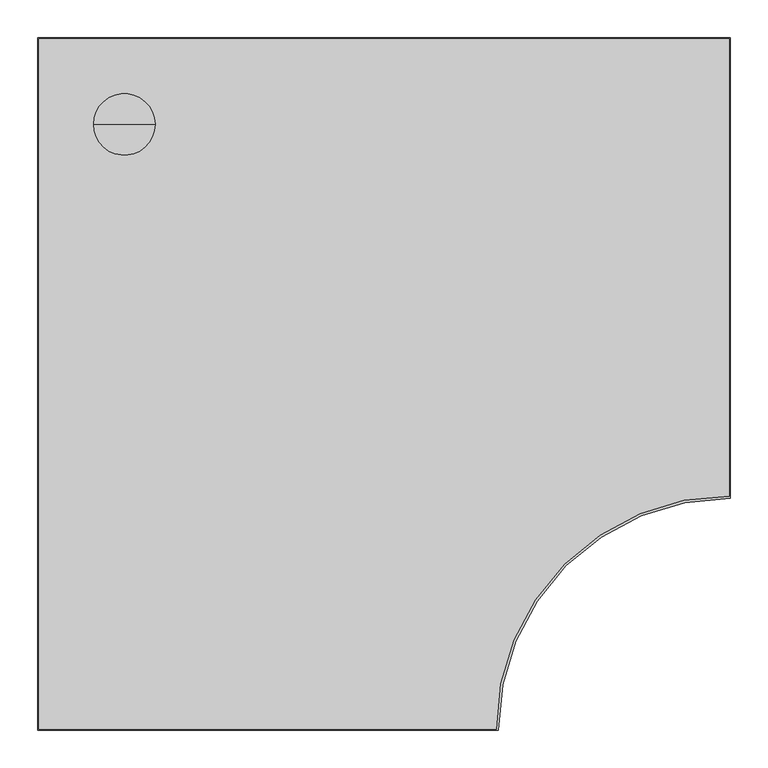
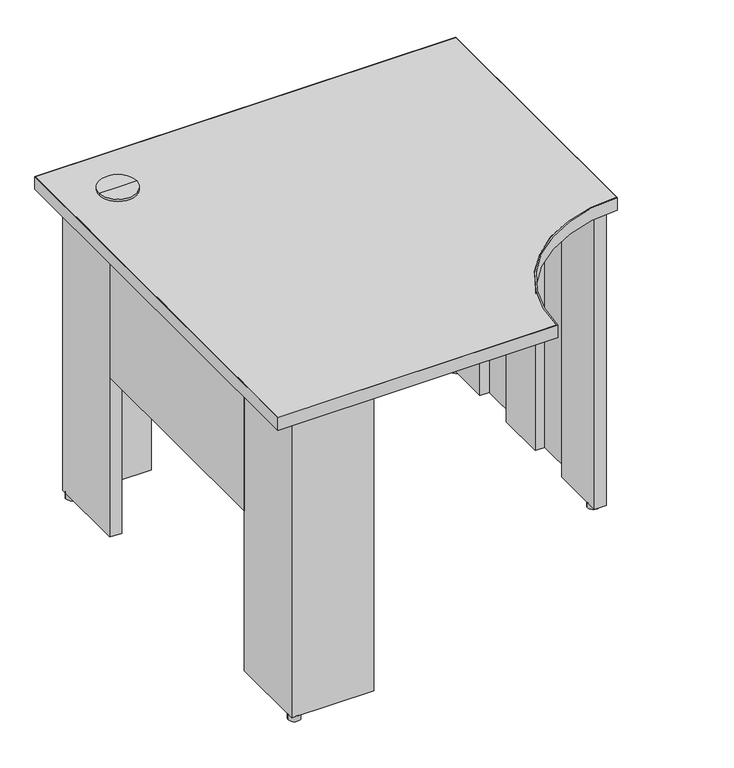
"""IFC4 building model written with IfcOpenShell, lengths in millimetres: furniture geometry, Steelcase - Kick Freestanding - Desk - Curve Corner - Partial Height Modesty Panel : 24D x 36W - Right Full End Panel/Left Clear Access Support - LPL."""

from ifc_helpers import new_model, si_unit, point, frame, frame_2d, origin, origin_with_axes, place, context, project, spatial, polyline, circle_curve, trimmed, segment, composite_curve, outline, extrude, source, transform, mapped, element, save
from ifc_brep_helpers import plane_surface, cylinder_surface, advanced_brep


def furniture_d7204672(model_context):
    return source(origin(), model_context, "Body", "SolidModel", [
        extrude(outline(composite_curve([segment(trimmed(circle_curve(frame_2d((886.4853521, -565.8064761)), 12.7), [point((873.7853521, -565.8064761))], [point((899.1853521, -565.8064761))], False, "CARTESIAN"), True, "CONTINUOUS"), segment(trimmed(circle_curve(frame_2d((886.4853521, -565.8064761)), 12.7), [point((899.1853521, -565.8064761))], [point((873.7853521, -565.8064761))], False, "CARTESIAN"), True, "CONTINUOUS")], self_intersect=False)), origin_with_axes(), (0.0, 0.0, 1.0), 12.446),
        extrude(outline(polyline([(215.8999939, -63.5), (63.5, -63.5), (63.5, -215.8999939), (38.1, -215.8999939), (38.1, -38.1), (215.8999939, -38.1), (215.8999939, -63.5)])), frame((0.0, 0.0, 12.446), z_axis=(0.0, 0.0, 1.0), x_axis=(1.0, 0.0, 0.0)), (0.0, 0.0, 1.0), 682.498),
        extrude(outline(polyline([(721.6393822, -63.5), (721.6393822, -38.1), (899.4393579, -38.1), (899.4393579, -592.582), (873.5313463, -592.582), (873.5313463, -469.5444), (893.698945, -469.5444), (893.698945, -369.824), (873.5313463, -369.824), (873.5313463, -261.0866), (893.698945, -261.0866), (893.698945, -161.3662), (873.5313463, -161.3662), (873.5313463, -63.5), (721.6393822, -63.5)])), frame((0.0, 0.0, 12.446), z_axis=(0.0, 0.0, 1.0), x_axis=(1.0, 0.0, 0.0)), (0.0, 0.0, 1.0), 682.498),
        advanced_brep(
        [(114.3, -114.3, 728.98), (154.94, -114.3, 728.98), (73.66, -114.3, 728.98), (76.1699693, -114.3, 694.944), (152.4300307, -114.3, 694.944), (114.3, -114.3, 694.944), (76.1699693, -114.3, 723.9), (152.4300307, -114.3, 723.9), (73.66, -114.3, 723.9), (154.94, -114.3, 723.9)],
        [
            (0, 1),
            (1, 2, circle_curve(frame((114.3, -114.3, 728.98), z_axis=(0.0, 0.0, 1.0), x_axis=(1.0, 0.0, 0.0)), 40.64)),
            (2, 0),
            (2, 1, circle_curve(frame((114.3, -114.3, 728.98), z_axis=(0.0, 0.0, 1.0), x_axis=(1.0, 0.0, 0.0)), 40.64)),
            (3, 4, circle_curve(frame((114.3, -114.3, 694.944), z_axis=(0.0, 0.0, -1.0), x_axis=(1.0, 0.0, 0.0)), 38.1300307)),
            (4, 5),
            (5, 3),
            (4, 3, circle_curve(frame((114.3, -114.3, 694.944), z_axis=(0.0, 0.0, -1.0), x_axis=(1.0, 0.0, 0.0)), 38.1300307)),
            (6, 7, circle_curve(frame((114.3, -114.3, 723.9), z_axis=(0.0, 0.0, -1.0), x_axis=(1.0, 0.0, 0.0)), 38.1300307)),
            (7, 4),
            (3, 6),
            (7, 6, circle_curve(frame((114.3, -114.3, 723.9), z_axis=(0.0, 0.0, -1.0), x_axis=(1.0, 0.0, 0.0)), 38.1300307)),
            (8, 9, circle_curve(frame((114.3, -114.3, 723.9), z_axis=(0.0, 0.0, -1.0), x_axis=(1.0, 0.0, 0.0)), 40.64)),
            (9, 7),
            (6, 8),
            (9, 8, circle_curve(frame((114.3, -114.3, 723.9), z_axis=(0.0, 0.0, -1.0), x_axis=(1.0, 0.0, 0.0)), 40.64)),
            (1, 9),
            (8, 2),
        ],
        [
            plane_surface(frame((114.3, -114.3, 728.98), z_axis=(0.0, 0.0, 1.0), x_axis=(1.0, 0.0, 0.0))),
            plane_surface(frame((114.3, -114.3, 694.944), z_axis=(0.0, 0.0, -1.0), x_axis=(1.0, 0.0, 0.0))),
            cylinder_surface(frame((114.3, -114.3, 728.98), z_axis=(0.0, 0.0, 1.0), x_axis=(1.0, 0.0, 0.0)), 38.1300307),
            plane_surface(frame((114.3, -114.3, 723.9), z_axis=(0.0, 0.0, -1.0), x_axis=(1.0, 0.0, 0.0))),
            cylinder_surface(frame((114.3, -114.3, 728.98), z_axis=(0.0, 0.0, 1.0), x_axis=(1.0, 0.0, 0.0)), 40.64),
        ],
        [
            (0, [[1, 2, 3]]),
            (0, [[-3, 4, -1]]),
            (1, [[5, 6, 7]]),
            (1, [[8, -7, -6]]),
            (2, [[9, 10, -5, 11]]),
            (2, [[12, -11, -8, -10]]),
            (3, [[13, 14, -9, 15]]),
            (3, [[16, -15, -12, -14]]),
            (4, [[-2, 17, -13, 18]]),
            (4, [[-4, -18, -16, -17]]),
        ],
    ),
        extrude(outline(composite_curve([segment(trimmed(circle_curve(frame_2d((50.8, -50.8)), 12.7), [point((38.1, -50.8))], [point((63.5, -50.8))], False, "CARTESIAN"), True, "CONTINUOUS"), segment(trimmed(circle_curve(frame_2d((50.8, -50.8)), 12.7), [point((63.5, -50.8))], [point((38.1, -50.8))], False, "CARTESIAN"), True, "CONTINUOUS")], self_intersect=False)), origin_with_axes(), (0.0, 0.0, 1.0), 12.446),
        extrude(outline(composite_curve([segment(trimmed(circle_curve(frame_2d((50.8, -887.7300073)), 12.7484998), [point((38.0515002, -887.7300073))], [point((63.5484998, -887.7300073))], False, "CARTESIAN"), True, "CONTINUOUS"), segment(trimmed(circle_curve(frame_2d((50.8, -887.7300073)), 12.7484998), [point((63.5484998, -887.7300073))], [point((38.0515002, -887.7300073))], False, "CARTESIAN"), True, "CONTINUOUS")], self_intersect=False)), origin_with_axes(), (0.0, 0.0, 1.0), 12.446),
        extrude(outline(composite_curve([segment(trimmed(circle_curve(frame_2d((886.4853521, -50.8)), 12.7), [point((873.7853521, -50.8))], [point((899.1853521, -50.8))], False, "CARTESIAN"), True, "CONTINUOUS"), segment(trimmed(circle_curve(frame_2d((886.4853521, -50.8)), 12.7), [point((899.1853521, -50.8))], [point((873.7853521, -50.8))], False, "CARTESIAN"), True, "CONTINUOUS")], self_intersect=False)), origin_with_axes(), (0.0, 0.0, 1.0), 12.446),
        extrude(outline(polyline([(63.5, -215.8999939), (63.5, -722.6300194), (38.1, -722.6300194), (38.1, -215.8999939), (63.5, -215.8999939)])), frame((0.0, 0.0, 379.476), z_axis=(0.0, 0.0, 1.0), x_axis=(1.0, 0.0, 0.0)), (0.0, 0.0, 1.0), 315.468),
        extrude(outline(polyline([(721.6393822, -38.1), (721.6393822, -63.5), (215.8999939, -63.5), (215.8999939, -38.1), (721.6393822, -38.1)])), frame((0.0, 0.0, 379.476), z_axis=(0.0, 0.0, 1.0), x_axis=(1.0, 0.0, 0.0)), (0.0, 0.0, 1.0), 315.468),
        extrude(outline(polyline([(215.8999939, -875.0300194), (215.8999939, -900.4299952), (38.1, -900.4299952), (38.1, -722.6300194), (63.5, -722.6300194), (63.5, -875.0300194), (215.8999939, -875.0300194)])), frame((0.0, 0.0, 12.446), z_axis=(0.0, 0.0, 1.0), x_axis=(1.0, 0.0, 0.0)), (0.0, 0.0, 1.0), 682.498),
        extrude(outline(composite_curve([segment(polyline([(0.9906, -913.4093628), (0.9906, -0.9906), (913.4093628, -0.9906), (913.4093628, -605.3354109)]), True, "CONTINUOUS"), segment(trimmed(circle_curve(frame_2d((912.1393458, -912.1393458)), 306.8065636), [point((913.4093628, -605.3354109))], [point((605.3354109, -913.4093628))], True, "CARTESIAN"), True, "CONTINUOUS"), segment(polyline([(605.3354109, -913.4093628), (0.9906, -913.4093628)]), True, "CONTINUOUS")], self_intersect=False)), frame((0.0, 0.0, 694.944), z_axis=(0.0, 0.0, 1.0), x_axis=(1.0, 0.0, 0.0)), (0.0, 0.0, 1.0), 28.956),
        extrude(outline(composite_curve([segment(polyline([(914.4, 0.0), (914.4, -608.332629)]), True, "CONTINUOUS"), segment(trimmed(circle_curve(frame_2d((913.129983, -913.129983)), 304.8), [point((914.4, -608.332629))], [point((608.332629, -914.4))], True, "CARTESIAN"), True, "CONTINUOUS"), segment(polyline([(608.332629, -914.4), (0.0, -914.4), (0.0, 0.0), (914.4, 0.0)]), True, "CONTINUOUS")], self_intersect=False), holes=[composite_curve([segment(polyline([(913.4093628, -0.9906), (0.9906, -0.9906), (0.9906, -913.4093628), (605.3354109, -913.4093628)]), True, "CONTINUOUS"), segment(trimmed(circle_curve(frame_2d((912.1393458, -912.1393458)), 306.8065636), [point((605.3354109, -913.4093628))], [point((913.4093628, -605.3354109))], False, "CARTESIAN"), True, "CONTINUOUS"), segment(polyline([(913.4093628, -605.3354109), (913.4093628, -0.9906)]), True, "CONTINUOUS")], self_intersect=False)]), frame((0.0, 0.0, 694.944), z_axis=(0.0, 0.0, 1.0), x_axis=(1.0, 0.0, 0.0)), (0.0, 0.0, 1.0), 28.956),
    ])


if __name__ == "__main__":
    model = new_model("IFC4")
    model_context = context("Model", 3, world=origin())
    ifc_project = project(units=[si_unit("LENGTHUNIT", "METRE", prefix="MILLI")], contexts=[model_context])
    site = spatial("IfcSite", under=ifc_project)
    building = spatial("IfcBuilding", under=site)
    placement = place(None, origin())
    furniture_shape = furniture_d7204672(model_context)
    element("IfcFurniture", 1, ObjectType="Steelcase - Kick Freestanding - Desk - Curve Corner - Partial Height Modesty Panel : 24D x 36W - Right Full End Panel/Left Clear Access Support - LPL", at=placement, inside=building, context=model_context, shape_type="MappedRepresentation", body=[
        mapped(furniture_shape, transform((0.0, 0.0, 0.0), x_axis=(1.0, 0.0, 0.0), y_axis=(0.0, 1.0, 0.0), z_axis=(0.0, 0.0, 1.0))),
    ])
    save(model, "model.ifc")
